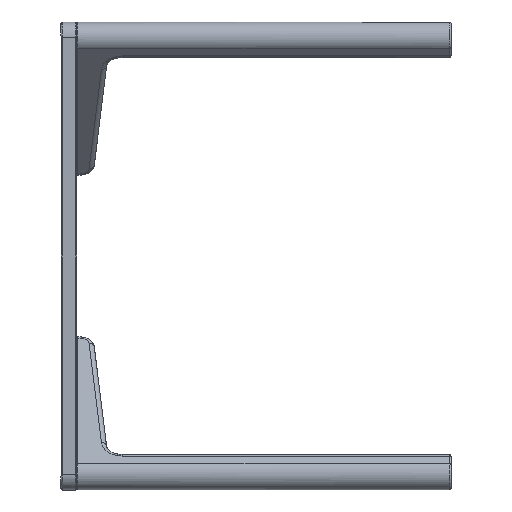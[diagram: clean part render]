
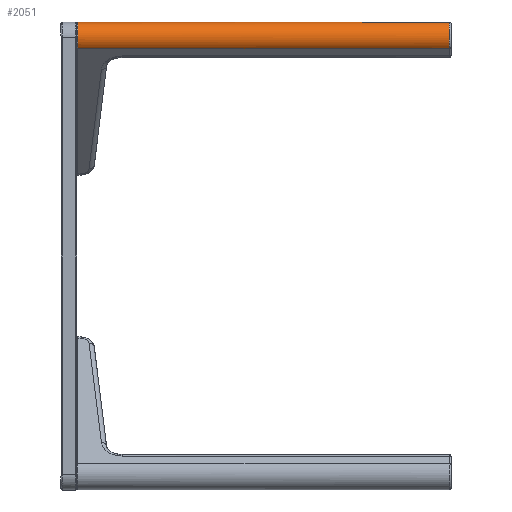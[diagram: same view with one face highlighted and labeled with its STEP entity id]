
A CAD part, left-side view. The second image highlights one B-rep face of the part: STEP entity #2051.
In plain terms, the highlighted free-form (B-spline) face has degree [1, 3] with [2, 4] control points.
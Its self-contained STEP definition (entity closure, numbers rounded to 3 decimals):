
#41 = CARTESIAN_POINT ( 'NONE',  ( -717., 410., 0. ) ) ;
#55 = CARTESIAN_POINT ( 'NONE',  ( -717., 350., 0. ) ) ;
#97 = CARTESIAN_POINT ( 'NONE',  ( -2., 380., 30. ) ) ;
#234 = CARTESIAN_POINT ( 'NONE',  ( -2., 410., 60. ) ) ;
#260 = ORIENTED_EDGE ( 'NONE', *, *, #351, .F. ) ;
#303 = B_SPLINE_CURVE_WITH_KNOTS ( 'NONE', 1,
 ( #2438, #1259 ),
 .UNSPECIFIED., .F., .F.,
 ( 2, 2 ),
 ( 0., 1. ),
 .UNSPECIFIED. ) ;
#351 = EDGE_CURVE ( 'NONE', #739, #1216, #2200, .T. ) ;
#395 = CARTESIAN_POINT ( 'NONE',  ( -2., 350., 0. ) ) ;
#424 = FACE_OUTER_BOUND ( 'NONE', #1730, .T. ) ;
#460 = CARTESIAN_POINT ( 'NONE',  ( -2., 380., 30. ) ) ;
#576 = CARTESIAN_POINT ( 'NONE',  ( -717., 350., 60. ) ) ;
#653 = CARTESIAN_POINT ( 'NONE',  ( -2., 350., 0. ) ) ;
#688 = CARTESIAN_POINT ( 'NONE',  ( -717., 350., 0. ) ) ;
#739 = VERTEX_POINT ( 'NONE', #576 ) ;
#845 = CARTESIAN_POINT ( 'NONE',  ( -2., 367.574, 60. ) ) ;
#871 = ORIENTED_EDGE ( 'NONE', *, *, #934, .F. ) ;
#886 = ORIENTED_EDGE ( 'NONE', *, *, #964, .F. ) ;
#915 = EDGE_CURVE ( 'NONE', #2313, #2423, #2495, .T. ) ;
#934 = EDGE_CURVE ( 'NONE', #2423, #739, #303, .T. ) ;
#964 = EDGE_CURVE ( 'NONE', #1577, #2313, #1283, .T. ) ;
#1011 = CARTESIAN_POINT ( 'NONE',  ( -717., 410., 60. ) ) ;
#1022 = CARTESIAN_POINT ( 'NONE',  ( -717., 350., 60. ) ) ;
#1033 =( BOUNDED_SURFACE ( )  B_SPLINE_SURFACE ( 1, 3, ( 
 ( #1996, #234, #2005, #395 ),
 ( #1022, #1011, #41, #55 ) ),
 .UNSPECIFIED., .F., .F., .T. ) 
 B_SPLINE_SURFACE_WITH_KNOTS ( ( 2, 2 ),
 ( 4, 4 ),
 ( 0., 1. ),
 ( 0., 1. ),
 .UNSPECIFIED. ) 
 GEOMETRIC_REPRESENTATION_ITEM ( )  RATIONAL_B_SPLINE_SURFACE ( (
 ( 1., 0.333, 0.333, 1.),
 ( 1., 0.333, 0.333, 1.) ) ) 
 REPRESENTATION_ITEM ( '' )  SURFACE ( )  );
#1216 = VERTEX_POINT ( 'NONE', #1646 ) ;
#1259 = CARTESIAN_POINT ( 'NONE',  ( -717., 350., 60. ) ) ;
#1283 =( BOUNDED_CURVE ( )  B_SPLINE_CURVE ( 3, ( #653, #1438, #2227, #460 ),
 .UNSPECIFIED., .F., .T. ) 
 B_SPLINE_CURVE_WITH_KNOTS ( ( 4, 4 ),
 ( 0., 1.571 ),
 .UNSPECIFIED. ) 
 CURVE ( )  GEOMETRIC_REPRESENTATION_ITEM ( )  RATIONAL_B_SPLINE_CURVE ( ( 0.957, 0.77, 0.77, 0.957 ) ) 
 REPRESENTATION_ITEM ( '' )  );
#1404 = CARTESIAN_POINT ( 'NONE',  ( -717., 350., 60. ) ) ;
#1438 = CARTESIAN_POINT ( 'NONE',  ( -2., 367.574, 0. ) ) ;
#1460 = EDGE_CURVE ( 'NONE', #1216, #1577, #2048, .T. ) ;
#1506 = CARTESIAN_POINT ( 'NONE',  ( -2., 380., 30. ) ) ;
#1531 = CARTESIAN_POINT ( 'NONE',  ( -2., 350., 60. ) ) ;
#1577 = VERTEX_POINT ( 'NONE', #1818 ) ;
#1618 = CARTESIAN_POINT ( 'NONE',  ( -2., 350., 60. ) ) ;
#1646 = CARTESIAN_POINT ( 'NONE',  ( -717., 350., 0. ) ) ;
#1730 = EDGE_LOOP ( 'NONE', ( #2058, #886, #2491, #260, #871 ) ) ;
#1818 = CARTESIAN_POINT ( 'NONE',  ( -2., 350., 0. ) ) ;
#1821 = CARTESIAN_POINT ( 'NONE',  ( -2., 380., 47.574 ) ) ;
#1823 = CARTESIAN_POINT ( 'NONE',  ( -717., 410., 60. ) ) ;
#1853 = CARTESIAN_POINT ( 'NONE',  ( -717., 410., 0. ) ) ;
#1996 = CARTESIAN_POINT ( 'NONE',  ( -2., 350., 60. ) ) ;
#2005 = CARTESIAN_POINT ( 'NONE',  ( -2., 410., 0. ) ) ;
#2048 = B_SPLINE_CURVE_WITH_KNOTS ( 'NONE', 1,
 ( #688, #2261 ),
 .UNSPECIFIED., .F., .F.,
 ( 2, 2 ),
 ( 0., 1. ),
 .UNSPECIFIED. ) ;
#2051 = ADVANCED_FACE ( 'NONE', ( #424 ), #1033, .F. ) ;
#2058 = ORIENTED_EDGE ( 'NONE', *, *, #915, .F. ) ;
#2200 =( BOUNDED_CURVE ( )  B_SPLINE_CURVE ( 3, ( #1404, #1823, #1853, #2441 ),
 .UNSPECIFIED., .F., .T. ) 
 B_SPLINE_CURVE_WITH_KNOTS ( ( 4, 4 ),
 ( 0., 3.142 ),
 .UNSPECIFIED. ) 
 CURVE ( )  GEOMETRIC_REPRESENTATION_ITEM ( )  RATIONAL_B_SPLINE_CURVE ( ( 0.957, 0.319, 0.319, 0.957 ) ) 
 REPRESENTATION_ITEM ( '' )  );
#2227 = CARTESIAN_POINT ( 'NONE',  ( -2., 380., 12.426 ) ) ;
#2261 = CARTESIAN_POINT ( 'NONE',  ( -2., 350., 0. ) ) ;
#2313 = VERTEX_POINT ( 'NONE', #1506 ) ;
#2423 = VERTEX_POINT ( 'NONE', #1531 ) ;
#2438 = CARTESIAN_POINT ( 'NONE',  ( -2., 350., 60. ) ) ;
#2441 = CARTESIAN_POINT ( 'NONE',  ( -717., 350., 0. ) ) ;
#2491 = ORIENTED_EDGE ( 'NONE', *, *, #1460, .F. ) ;
#2495 =( BOUNDED_CURVE ( )  B_SPLINE_CURVE ( 3, ( #97, #1821, #845, #1618 ),
 .UNSPECIFIED., .F., .T. ) 
 B_SPLINE_CURVE_WITH_KNOTS ( ( 4, 4 ),
 ( 0., 1.571 ),
 .UNSPECIFIED. ) 
 CURVE ( )  GEOMETRIC_REPRESENTATION_ITEM ( )  RATIONAL_B_SPLINE_CURVE ( ( 0.957, 0.77, 0.77, 0.957 ) ) 
 REPRESENTATION_ITEM ( '' )  );
